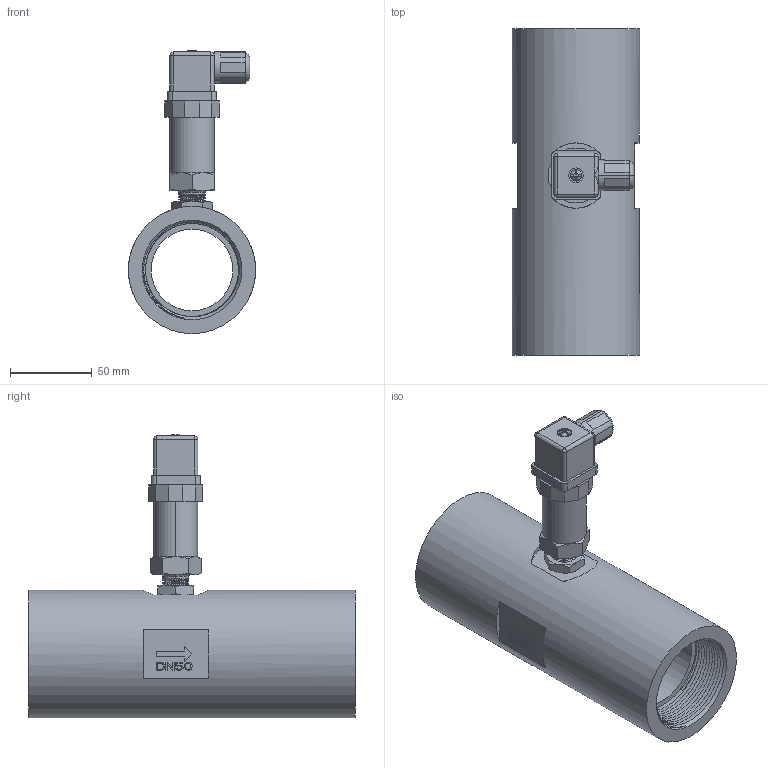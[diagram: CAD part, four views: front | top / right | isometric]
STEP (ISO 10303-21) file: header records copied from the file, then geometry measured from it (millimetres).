
FILE_DESCRIPTION( (''), '2;1');
FILE_NAME( 'QTKB_DN50_female-thread_DIN-plug.step', '2024-10-14T08:21:13+08:00', (''), (''), '', '', '');
FILE_SCHEMA (('AUTOMOTIVE_DESIGN { 1 0 10303 214 3 1 1 1 }'));
Length unit declared in the file: millimetre
Products named in the file (1): QTKB DN50_female-thread_DIN-plug
Bounding box: 78 x 200 x 173.5 mm (x, y, z)
Volume: 583825.8 mm3; surface area: 116709.2 mm2
Topology: 5 solids, 6 shells, 521 faces, 1409 edges, 924 vertices
Faces by surface type: plane 382, cylinder 57, cone 38, bspline 36, torus 4, sphere 4
Full cylindrical faces by diameter (mm): 15 x1, 50 x1, 57 x1, 78 x1
Entity records: 21166 total; most frequent: CARTESIAN_POINT 8442, ORIENTED_EDGE 2772, DIRECTION 2340, EDGE_CURVE 1386, LINE 1014, VECTOR 1014, VERTEX_POINT 914, AXIS2_PLACEMENT_3D 663
